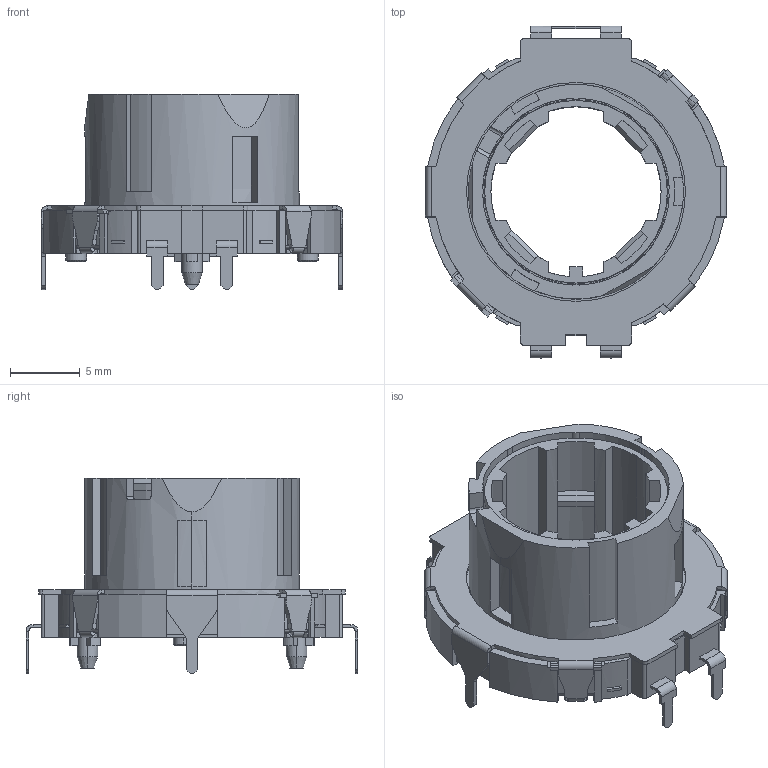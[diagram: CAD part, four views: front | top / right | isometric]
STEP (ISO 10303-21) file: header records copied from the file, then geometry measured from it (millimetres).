
FILE_DESCRIPTION (( 'STEP AP214' ), '1' );
FILE_NAME ('EC21C1520402.STEP', '2017-05-15T23:57:31', ( 'user' ), ( 'Hewlett-Packard Company' ), 'SwSTEP 2.0', 'SolidWorks 2014', '' );
FILE_SCHEMA (( 'AUTOMOTIVE_DESIGN' ));
Length unit declared in the file: millimetre
Products named in the file (1): EC21C1520402
Bounding box: 21.59 x 23.8 x 14 mm (x, y, z)
Volume: 1400.4 mm3; surface area: 2255.8 mm2
Topology: 1 solids, 1 shells, 724 faces, 1950 edges, 1232 vertices
Faces by surface type: plane 471, cylinder 195, bspline 28, sphere 16, cone 14
Entity records: 30340 total; most frequent: CARTESIAN_POINT 4657, ORIENTED_EDGE 3900, DIRECTION 3704, EDGE_CURVE 1950, LINE 1326, VECTOR 1326, VERTEX_POINT 1232, AXIS2_PLACEMENT_3D 1189
